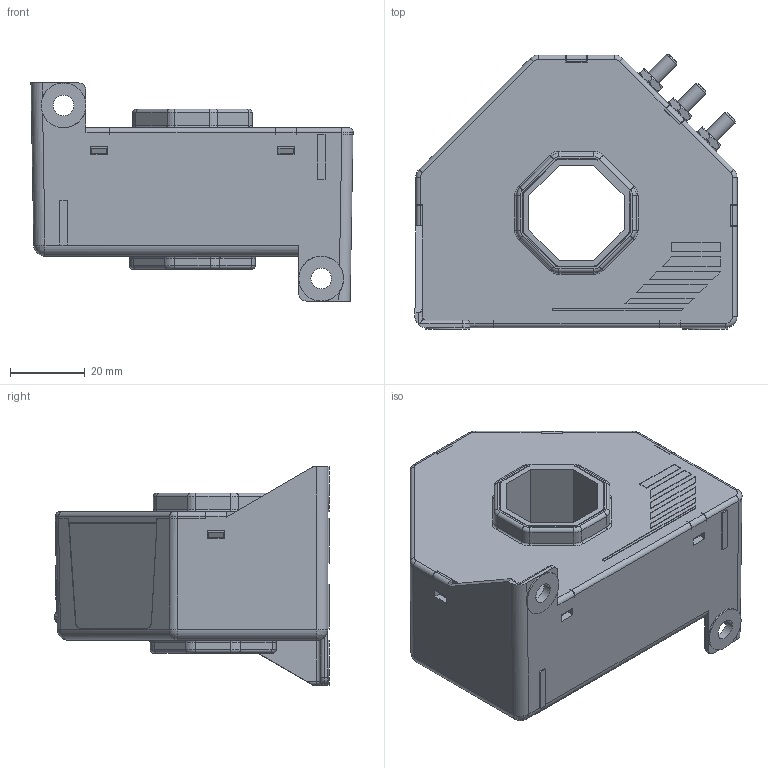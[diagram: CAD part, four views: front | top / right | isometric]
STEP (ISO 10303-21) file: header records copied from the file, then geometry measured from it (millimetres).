
FILE_DESCRIPTION(('Creo Elements/Direct Modeling STEP Export'),'2;1');
FILE_NAME('LA305_S_SP4.stp','2013-10-15T 7:34:17',(''),(''),'Creo Elements/Direct Modeling STEP processor for AP214 (Solid Model)','Creo Elements/Direct Modeling 17.0E 05-Feb-2012 (C) Parametric Technology GmbH','');
FILE_SCHEMA(('AUTOMOTIVE_DESIGN { 1 0 10303 214 1 1 1 1 }'));
Length unit declared in the file: millimetre
Products named in the file (2): enveloppe_Body_1
Assembly tree (1 placements, depth 2):
  enveloppe_Body_1
    enveloppe_Body_1
Bounding box: 86.25 x 73.61 x 58.4 mm (x, y, z)
Volume: 161951.6 mm3; surface area: 40394.6 mm2
Topology: 1 solids, 21 shells, 1452 faces, 3786 edges, 2425 vertices
Faces by surface type: plane 1109, cylinder 244, cone 42, torus 40, extrusion 9, bspline 8
Entity records: 51585 total; most frequent: CARTESIAN_POINT 16015, ORIENTED_EDGE 7564, DIRECTION 6654, EDGE_CURVE 3781, VECTOR 3114, LINE 3105, VERTEX_POINT 2425, AXIS2_PLACEMENT_3D 1770
